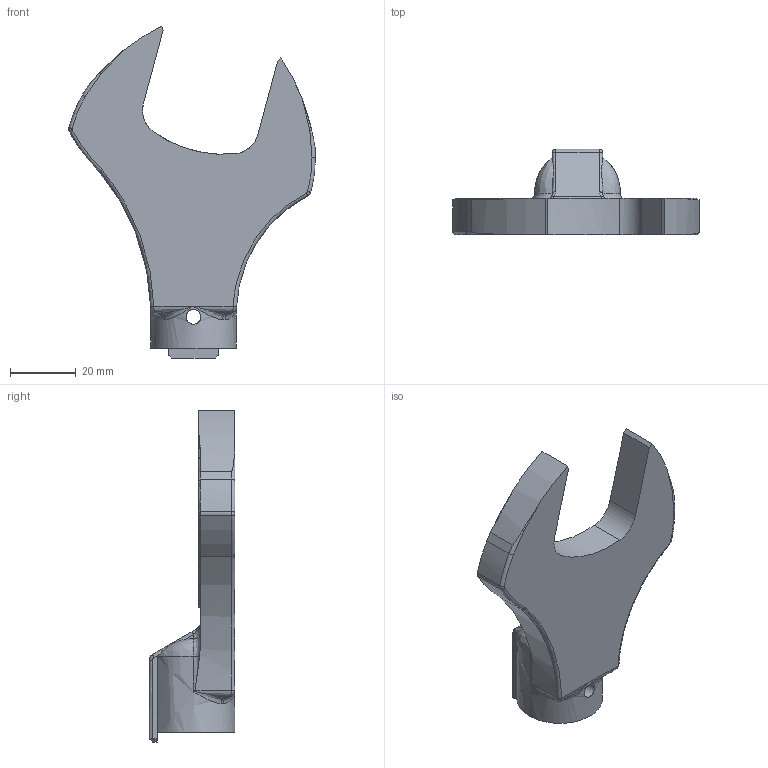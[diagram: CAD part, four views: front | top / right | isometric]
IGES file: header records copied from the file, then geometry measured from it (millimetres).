
Global section: file name: SH19DX36; native system: Autodesk Inventor 2016; preprocessor: unknown; author: Q600; date: 20151029.175349; units: millimetre
Bounding box: 74.88 x 26 x 100.82 mm (x, y, z)
Volume: 38663.9 mm3; surface area: 12705.4 mm2
Topology: 1 solids, 1 shells, 100 faces, 276 edges, 169 vertices
Faces by surface type: bspline 100
